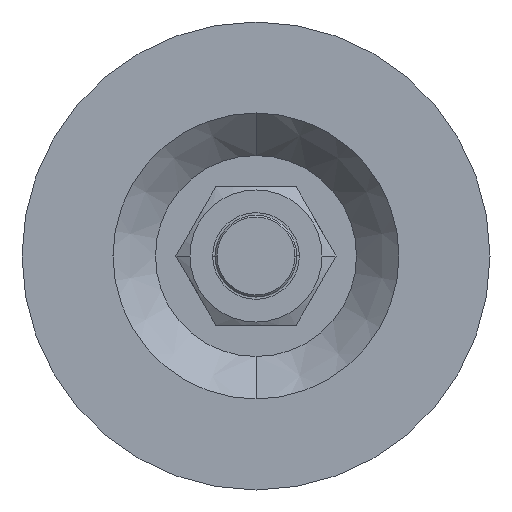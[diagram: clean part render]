
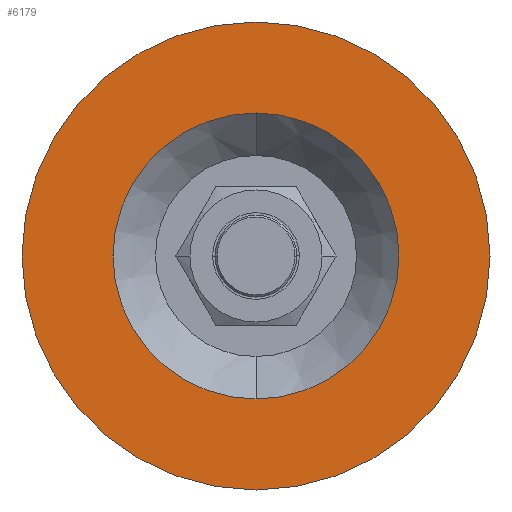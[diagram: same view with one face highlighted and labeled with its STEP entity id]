
A CAD part, front view. The second image highlights one B-rep face of the part: STEP entity #6179.
In plain terms, the highlighted planar face has unit normal (0, -1, 0).
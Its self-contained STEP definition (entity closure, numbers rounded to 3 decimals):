
#28 = DIRECTION ( 'NONE',  ( 0., 0., -1. ) ) ;
#196 = CARTESIAN_POINT ( 'NONE',  ( 0., -3.2, -27. ) ) ;
#454 = VERTEX_POINT ( 'NONE', #954 ) ;
#474 = AXIS2_PLACEMENT_3D ( 'NONE', #196, #3329, #6970 ) ;
#563 = DIRECTION ( 'NONE',  ( 0., 0., -1. ) ) ;
#577 = DIRECTION ( 'NONE',  ( 0., 0., -1. ) ) ;
#638 = DIRECTION ( 'NONE',  ( 0., -1., 0. ) ) ;
#701 = EDGE_LOOP ( 'NONE', ( #6978, #4032 ) ) ;
#954 = CARTESIAN_POINT ( 'NONE',  ( 0., -3.2, 27. ) ) ;
#1111 = AXIS2_PLACEMENT_3D ( 'NONE', #1234, #4304, #577 ) ;
#1234 = CARTESIAN_POINT ( 'NONE',  ( 0., -3.2, 0. ) ) ;
#1438 = CARTESIAN_POINT ( 'NONE',  ( 0., -3.2, -27. ) ) ;
#1763 = CIRCLE ( 'NONE', #1111, 27. ) ;
#1829 = EDGE_CURVE ( 'NONE', #2813, #454, #5265, .T. ) ;
#1867 = CIRCLE ( 'NONE', #3398, 16.5 ) ;
#2049 = VERTEX_POINT ( 'NONE', #7321 ) ;
#2076 = FACE_OUTER_BOUND ( 'NONE', #3896, .T. ) ;
#2402 = VERTEX_POINT ( 'NONE', #6856 ) ;
#2717 = AXIS2_PLACEMENT_3D ( 'NONE', #3211, #638, #28 ) ;
#2782 = DIRECTION ( 'NONE',  ( 0., 0., -1. ) ) ;
#2813 = VERTEX_POINT ( 'NONE', #1438 ) ;
#3211 = CARTESIAN_POINT ( 'NONE',  ( 0., -3.2, 0. ) ) ;
#3329 = DIRECTION ( 'NONE',  ( 0., -1., 0. ) ) ;
#3398 = AXIS2_PLACEMENT_3D ( 'NONE', #6945, #4033, #2782 ) ;
#3896 = EDGE_LOOP ( 'NONE', ( #4685, #4212 ) ) ;
#3930 = PLANE ( 'NONE',  #474 ) ;
#4029 = AXIS2_PLACEMENT_3D ( 'NONE', #7246, #6655, #563 ) ;
#4032 = ORIENTED_EDGE ( 'NONE', *, *, #4957, .F. ) ;
#4033 = DIRECTION ( 'NONE',  ( 0., -1., 0. ) ) ;
#4099 = CIRCLE ( 'NONE', #4029, 16.5 ) ;
#4212 = ORIENTED_EDGE ( 'NONE', *, *, #6045, .T. ) ;
#4284 = FACE_BOUND ( 'NONE', #701, .T. ) ;
#4304 = DIRECTION ( 'NONE',  ( 0., -1., 0. ) ) ;
#4685 = ORIENTED_EDGE ( 'NONE', *, *, #1829, .T. ) ;
#4957 = EDGE_CURVE ( 'NONE', #2049, #2402, #4099, .T. ) ;
#5265 = CIRCLE ( 'NONE', #2717, 27. ) ;
#6045 = EDGE_CURVE ( 'NONE', #454, #2813, #1763, .T. ) ;
#6175 = EDGE_CURVE ( 'NONE', #2402, #2049, #1867, .T. ) ;
#6179 = ADVANCED_FACE ( 'NONE', ( #2076, #4284 ), #3930, .T. ) ;
#6655 = DIRECTION ( 'NONE',  ( 0., -1., 0. ) ) ;
#6856 = CARTESIAN_POINT ( 'NONE',  ( 0., -3.2, -16.5 ) ) ;
#6945 = CARTESIAN_POINT ( 'NONE',  ( 0., -3.2, 0. ) ) ;
#6970 = DIRECTION ( 'NONE',  ( 0., 0., -1. ) ) ;
#6978 = ORIENTED_EDGE ( 'NONE', *, *, #6175, .F. ) ;
#7246 = CARTESIAN_POINT ( 'NONE',  ( 0., -3.2, 0. ) ) ;
#7321 = CARTESIAN_POINT ( 'NONE',  ( 0., -3.2, 16.5 ) ) ;
